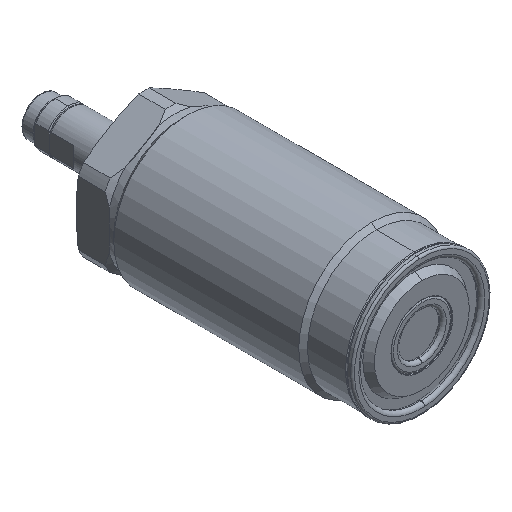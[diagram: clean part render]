
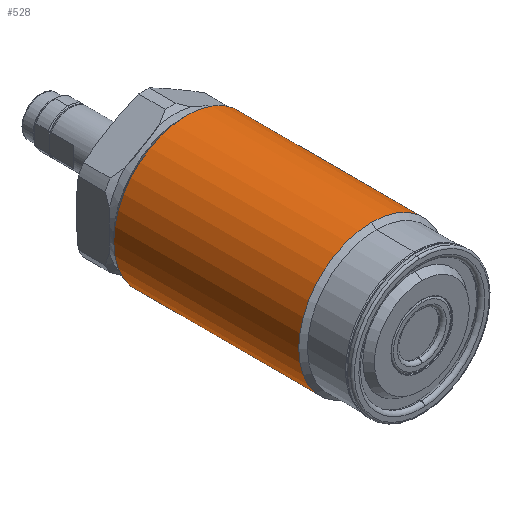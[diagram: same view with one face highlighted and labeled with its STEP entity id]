
A CAD part, isometric view. The second image highlights one B-rep face of the part: STEP entity #528.
In plain terms, the highlighted cylindrical face has radius 15 mm (diameter 30 mm), a full revolution.
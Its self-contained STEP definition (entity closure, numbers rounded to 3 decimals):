
#299=FACE_BOUND('',#950,.T.);
#300=FACE_BOUND('',#951,.T.);
#528=ADVANCED_FACE('',(#299,#300),#687,.T.);
#687=CYLINDRICAL_SURFACE('',#3236,15.);
#950=EDGE_LOOP('',(#1557));
#951=EDGE_LOOP('',(#1558,#1559,#1560,#1561,#1562,#1563));
#1143=LINE('',#4951,#1262);
#1144=LINE('',#4956,#1263);
#1262=VECTOR('',#3838,1.);
#1263=VECTOR('',#3841,1.);
#1557=ORIENTED_EDGE('',*,*,#2567,.T.);
#1558=ORIENTED_EDGE('',*,*,#2568,.T.);
#1559=ORIENTED_EDGE('',*,*,#2568,.F.);
#1560=ORIENTED_EDGE('',*,*,#2569,.T.);
#1561=ORIENTED_EDGE('',*,*,#2570,.T.);
#1562=ORIENTED_EDGE('',*,*,#2570,.F.);
#1563=ORIENTED_EDGE('',*,*,#2571,.T.);
#2273=VERTEX_POINT('',#4950);
#2274=VERTEX_POINT('',#4952);
#2275=VERTEX_POINT('',#4953);
#2276=VERTEX_POINT('',#4955);
#2277=VERTEX_POINT('',#4957);
#2567=EDGE_CURVE('',#2273,#2273,#2939,.T.);
#2568=EDGE_CURVE('',#2274,#2275,#1143,.T.);
#2569=EDGE_CURVE('',#2274,#2276,#2940,.T.);
#2570=EDGE_CURVE('',#2276,#2277,#1144,.T.);
#2571=EDGE_CURVE('',#2276,#2274,#2941,.T.);
#2939=CIRCLE('',#3233,15.);
#2940=CIRCLE('',#3234,15.);
#2941=CIRCLE('',#3235,15.);
#3233=AXIS2_PLACEMENT_3D('',#4949,#3836,#3837);
#3234=AXIS2_PLACEMENT_3D('',#4954,#3839,#3840);
#3235=AXIS2_PLACEMENT_3D('',#4958,#3842,#3843);
#3236=AXIS2_PLACEMENT_3D('',#4959,#3844,#3845);
#3836=DIRECTION('',(0.,-1.,0.));
#3837=DIRECTION('',(0.,0.,1.));
#3838=DIRECTION('',(0.,1.,0.));
#3839=DIRECTION('',(0.,1.,0.));
#3840=DIRECTION('',(0.,0.,1.));
#3841=DIRECTION('',(0.,1.,0.));
#3842=DIRECTION('',(0.,1.,0.));
#3843=DIRECTION('',(0.,0.,1.));
#3844=DIRECTION('',(0.,1.,0.));
#3845=DIRECTION('',(0.,0.,1.));
#4949=CARTESIAN_POINT('',(0.,48.3,0.));
#4950=CARTESIAN_POINT('',(0.,48.3,15.));
#4951=CARTESIAN_POINT('',(0.,59.7,15.));
#4952=CARTESIAN_POINT('',(0.,10.3,15.));
#4953=CARTESIAN_POINT('',(0.,46.292,15.));
#4954=CARTESIAN_POINT('',(0.,10.3,0.));
#4955=CARTESIAN_POINT('',(0.,10.3,-15.));
#4956=CARTESIAN_POINT('',(0.,59.7,-15.));
#4957=CARTESIAN_POINT('',(0.,46.292,-15.));
#4958=CARTESIAN_POINT('',(0.,10.3,0.));
#4959=CARTESIAN_POINT('',(0.,59.7,0.));
